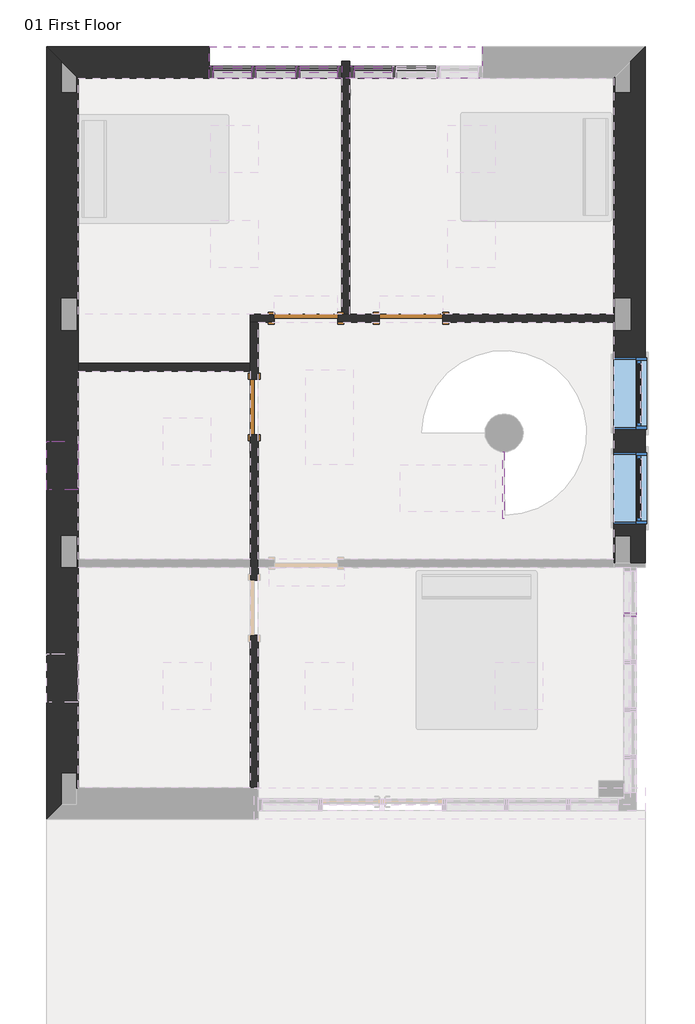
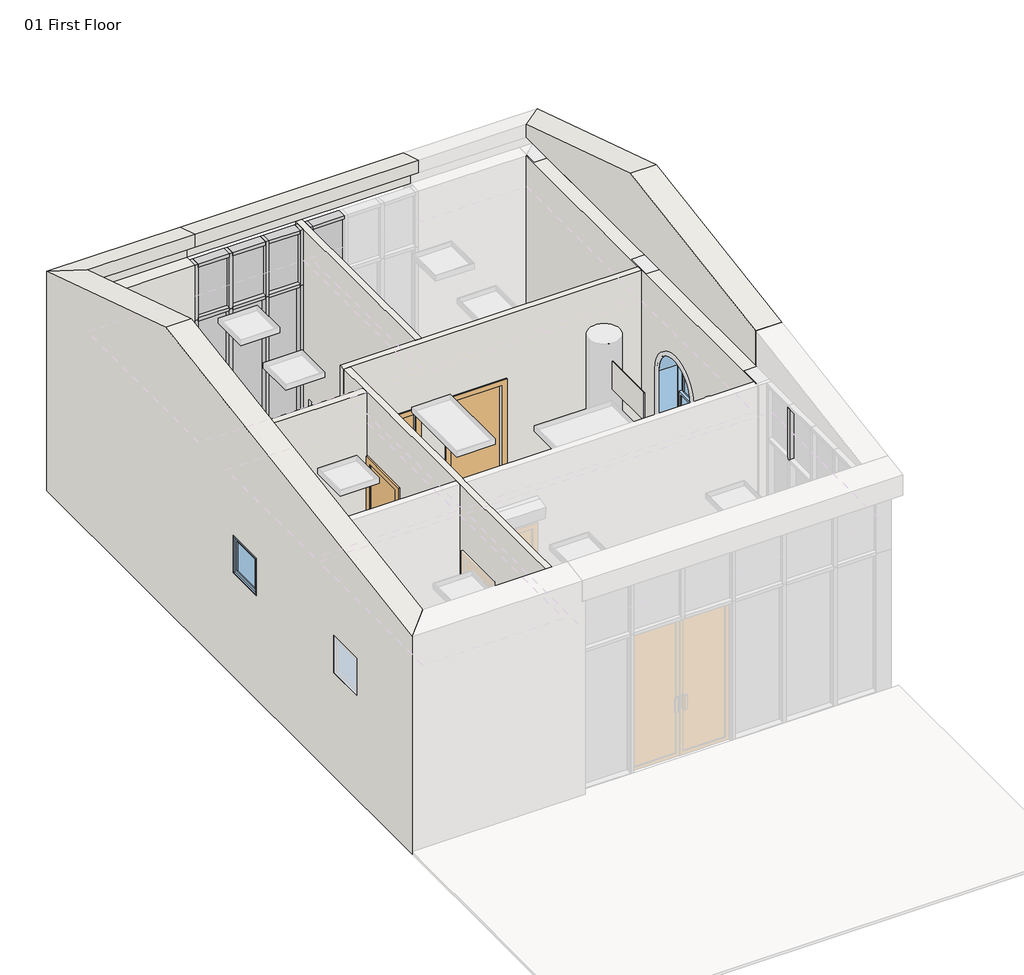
# One storey, part 2 of 3: 25 members, 9 walls, 8 plates, 3 doors, 3 windows.
"""IFC4 building model written with IfcOpenShell, lengths in millimetres."""

from ifc_helpers import new_model, si_unit, point, frame, frame_2d, origin, place, context, project, spatial, polyline, circle_curve, trimmed, segment, composite_curve, outline, extrude, faceted_brep, transform, mapped, element, save
from ifc_brep_helpers import plane_surface, revolved_surface, advanced_brep
from components import m_single_flush_0700_x_2100mm_23326b45, m_single_flush_0800_x_2100mm_e1c1bfab, m_single_flush_0800_x_2100mm_5931a049, rectangular_mullion_50_x_150mm_8753ce05, rectangular_mullion_50_x_150mm_f70f74d1, rectangular_mullion_50_x_150mm_f478ca5a, rectangular_mullion_50_x_150mm_d1e66009, rectangular_mullion_50_x_150mm_6b054e58, rectangular_mullion_50_x_150mm_158f91f9, rectangular_mullion_50_x_150mm_7e1a8c17, rectangular_mullion_50_x_150mm_3ddb3363, rectangular_mullion_50_x_150mm_35d6a770, rectangular_mullion_50_x_150mm_8bb02af5, rectangular_mullion_50_x_150mm_36ef6b42, rectangular_mullion_50_x_150mm_777ece87, system_panel_glazed_5d80e23d, system_panel_glazed_623b0429, system_panel_glazed_dae2c24c, system_panel_solid_e171d4ab, system_panel_solid_d5224606, system_panel_solid_02889cea, m_fixed_0610_x_0610mm_08517cb4, m_window_double_hung_arch_head_900_x_1800mm_510cd141

model = new_model("IFC4")

# Units and contexts
model_context = context("Model", 3, world=origin())
ifc_project = project(units=[si_unit("LENGTHUNIT", "METRE", prefix="MILLI")], contexts=[model_context])

# Site, building, storey
site = spatial("IfcSite", under=ifc_project)
building = spatial("IfcBuilding", under=site)
storey = spatial("IfcBuildingStorey", under=building, Name="01 First Floor", Elevation=3500.0)

# Doors
placement = place(None, origin())
m_single_flush_0700_x_2100mm_shape = m_single_flush_0700_x_2100mm_23326b45(model_context)
element("IfcDoor", 1, ObjectType="M_Single-Flush : 0700 x 2100mm", at=placement, inside=storey, context=model_context, shape_type="MappedRepresentation", body=[
    mapped(m_single_flush_0700_x_2100mm_shape, transform((-5882.5407999, 1965.8732706, 3500.0), x_axis=(0.0, 1.0, 0.0), y_axis=(-1.0, 0.0, 0.0), z_axis=(0.0, 0.0, 1.0))),
])
m_single_flush_0800_x_2100mm_shape = m_single_flush_0800_x_2100mm_e1c1bfab(model_context)
element("IfcDoor", 2, ObjectType="M_Single-Flush : 0800 x 2100mm", at=placement, inside=storey, context=model_context, shape_type="MappedRepresentation", body=[
    mapped(m_single_flush_0800_x_2100mm_shape, transform((-3898.1036851, 3087.4461437, 3500.0), x_axis=(-0.9999999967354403, -8.080296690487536e-05, 0.0), y_axis=(8.080296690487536e-05, -0.9999999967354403, 0.0), z_axis=(0.0, 0.0, 1.0))),
])
m_single_flush_0800_x_2100mm_2_shape = m_single_flush_0800_x_2100mm_5931a049(model_context)
element("IfcDoor", 3, ObjectType="M_Single-Flush : 0800 x 2100mm", at=placement, inside=storey, context=model_context, shape_type="MappedRepresentation", body=[
    mapped(m_single_flush_0800_x_2100mm_2_shape, transform((-5227.2000094, 3087.3387487, 3500.0), x_axis=(0.9999999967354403, 8.080296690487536e-05, 0.0), y_axis=(-8.080296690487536e-05, 0.9999999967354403, 0.0), z_axis=(0.0, 0.0, 1.0))),
])

# Members
rectangular_mullion_50_x_150mm_shape = rectangular_mullion_50_x_150mm_8753ce05(model_context)
element("IfcMember", 4, ObjectType="Rectangular Mullion : 50 x 150mm", at=placement, inside=storey, context=model_context, shape_type="MappedRepresentation", body=[
    mapped(rectangular_mullion_50_x_150mm_shape, transform((-4772.5407999, 6199.2898352, 3500.0), x_axis=(1.0, 0.0, 0.0), y_axis=(0.0, -1.0, 0.0), z_axis=(0.0, 0.0, -1.0))),
])
element("IfcMember", 5, ObjectType="Rectangular Mullion : 50 x 150mm", at=placement, inside=storey, context=model_context, shape_type="MappedRepresentation", body=[
    mapped(rectangular_mullion_50_x_150mm_shape, transform((-6447.5407999, 6199.2898352, 5800.0), x_axis=(-1.0, 0.0, 0.0), y_axis=(0.0, -1.0, 0.0), z_axis=(0.0, 0.0, 1.0))),
])
element("IfcMember", 6, ObjectType="Rectangular Mullion : 50 x 150mm", at=placement, inside=storey, context=model_context, shape_type="MappedRepresentation", body=[
    mapped(rectangular_mullion_50_x_150mm_shape, transform((-4668.7907999, 6199.2898352, 5800.0), x_axis=(-1.0, 0.0, 0.0), y_axis=(0.0, -1.0, 0.0), z_axis=(0.0, 0.0, 1.0))),
])
rectangular_mullion_50_x_150mm_2_shape = rectangular_mullion_50_x_150mm_f70f74d1(model_context)
element("IfcMember", 7, ObjectType="Rectangular Mullion : 50 x 150mm", at=placement, inside=storey, context=model_context, shape_type="MappedRepresentation", body=[
    mapped(rectangular_mullion_50_x_150mm_2_shape, transform((-5889.2074665, 6199.2898352, 3500.0), x_axis=(1.0, 0.0, 0.0), y_axis=(0.0, -1.0, 0.0), z_axis=(0.0, 0.0, -1.0))),
])
element("IfcMember", 8, ObjectType="Rectangular Mullion : 50 x 150mm", at=placement, inside=storey, context=model_context, shape_type="MappedRepresentation", body=[
    mapped(rectangular_mullion_50_x_150mm_2_shape, transform((-5330.8741334, 6199.2898352, 3500.0), x_axis=(1.0, 0.0, 0.0), y_axis=(0.0, -1.0, 0.0), z_axis=(0.0, 0.0, -1.0))),
])
element("IfcMember", 9, ObjectType="Rectangular Mullion : 50 x 150mm", at=placement, inside=storey, context=model_context, shape_type="MappedRepresentation", body=[
    mapped(rectangular_mullion_50_x_150mm_2_shape, transform((-4111.7074665, 6199.2898352, 3500.0), x_axis=(1.0, 0.0, 0.0), y_axis=(0.0, -1.0, 0.0), z_axis=(0.0, 0.0, -1.0))),
])
rectangular_mullion_50_x_150mm_3_shape = rectangular_mullion_50_x_150mm_f478ca5a(model_context)
element("IfcMember", 10, ObjectType="Rectangular Mullion : 50 x 150mm", at=placement, inside=storey, context=model_context, shape_type="MappedRepresentation", body=[
    mapped(rectangular_mullion_50_x_150mm_3_shape, transform((-1127.5407999, -662.7101649, 5800.0), x_axis=(0.0, 1.0, 0.0), y_axis=(1.0, 0.0, 0.0), z_axis=(0.0, 0.0, -1.0))),
])
rectangular_mullion_50_x_150mm_4_shape = rectangular_mullion_50_x_150mm_d1e66009(model_context)
element("IfcMember", 11, ObjectType="Rectangular Mullion : 50 x 150mm", at=placement, inside=storey, context=model_context, shape_type="MappedRepresentation", body=[
    mapped(rectangular_mullion_50_x_150mm_4_shape, transform((-4822.5407999, 6199.2898352, 6700.0), x_axis=(0.0, 0.0, 1.0), y_axis=(0.0, -1.0, 0.0), z_axis=(1.0, 0.0, 0.0))),
])
element("IfcMember", 12, ObjectType="Rectangular Mullion : 50 x 150mm", at=placement, inside=storey, context=model_context, shape_type="MappedRepresentation", body=[
    mapped(rectangular_mullion_50_x_150mm_4_shape, transform((-5914.2074665, 6199.2898352, 6700.0), x_axis=(0.0, 0.0, 1.0), y_axis=(0.0, -1.0, 0.0), z_axis=(1.0, 0.0, 0.0))),
])
rectangular_mullion_50_x_150mm_5_shape = rectangular_mullion_50_x_150mm_6b054e58(model_context)
element("IfcMember", 13, ObjectType="Rectangular Mullion : 50 x 150mm", at=placement, inside=storey, context=model_context, shape_type="MappedRepresentation", body=[
    mapped(rectangular_mullion_50_x_150mm_5_shape, transform((-5355.8741334, 6199.2898352, 6700.0), x_axis=(0.0, 0.0, 1.0), y_axis=(0.0, -1.0, 0.0), z_axis=(1.0, 0.0, 0.0))),
])
element("IfcMember", 14, ObjectType="Rectangular Mullion : 50 x 150mm", at=placement, inside=storey, context=model_context, shape_type="MappedRepresentation", body=[
    mapped(rectangular_mullion_50_x_150mm_4_shape, transform((-6397.5407999, 6199.2898352, 3500.0), x_axis=(0.0, 0.0, -1.0), y_axis=(0.0, -1.0, 0.0), z_axis=(-1.0, 0.0, 0.0))),
])
element("IfcMember", 15, ObjectType="Rectangular Mullion : 50 x 150mm", at=placement, inside=storey, context=model_context, shape_type="MappedRepresentation", body=[
    mapped(rectangular_mullion_50_x_150mm_4_shape, transform((-5305.8741334, 6199.2898352, 3500.0), x_axis=(0.0, 0.0, -1.0), y_axis=(0.0, -1.0, 0.0), z_axis=(-1.0, 0.0, 0.0))),
])
element("IfcMember", 16, ObjectType="Rectangular Mullion : 50 x 150mm", at=placement, inside=storey, context=model_context, shape_type="MappedRepresentation", body=[
    mapped(rectangular_mullion_50_x_150mm_5_shape, transform((-5864.2074665, 6199.2898352, 3500.0), x_axis=(0.0, 0.0, -1.0), y_axis=(0.0, -1.0, 0.0), z_axis=(-1.0, 0.0, 0.0))),
])
rectangular_mullion_50_x_150mm_6_shape = rectangular_mullion_50_x_150mm_158f91f9(model_context)
element("IfcMember", 17, ObjectType="Rectangular Mullion : 50 x 150mm", at=placement, inside=storey, context=model_context, shape_type="MappedRepresentation", body=[
    mapped(rectangular_mullion_50_x_150mm_6_shape, transform((-5914.2074665, 6199.2898352, 5800.0), x_axis=(0.0, 0.0, 1.0), y_axis=(0.0, -1.0, 0.0), z_axis=(1.0, 0.0, 0.0))),
])
element("IfcMember", 18, ObjectType="Rectangular Mullion : 50 x 150mm", at=placement, inside=storey, context=model_context, shape_type="MappedRepresentation", body=[
    mapped(rectangular_mullion_50_x_150mm_6_shape, transform((-4822.5407999, 6199.2898352, 5800.0), x_axis=(0.0, 0.0, 1.0), y_axis=(0.0, -1.0, 0.0), z_axis=(1.0, 0.0, 0.0))),
])
rectangular_mullion_50_x_150mm_7_shape = rectangular_mullion_50_x_150mm_7e1a8c17(model_context)
element("IfcMember", 19, ObjectType="Rectangular Mullion : 50 x 150mm", at=placement, inside=storey, context=model_context, shape_type="MappedRepresentation", body=[
    mapped(rectangular_mullion_50_x_150mm_7_shape, transform((-5355.8741334, 6199.2898352, 5800.0), x_axis=(0.0, 0.0, 1.0), y_axis=(0.0, -1.0, 0.0), z_axis=(1.0, 0.0, 0.0))),
])
rectangular_mullion_50_x_150mm_8_shape = rectangular_mullion_50_x_150mm_3ddb3363(model_context)
element("IfcMember", 20, ObjectType="Rectangular Mullion : 50 x 150mm", at=placement, inside=storey, context=model_context, shape_type="MappedRepresentation", body=[
    mapped(rectangular_mullion_50_x_150mm_8_shape, transform((-5889.2074665, 6199.2898352, 5800.0), x_axis=(1.0, 0.0, 0.0), y_axis=(0.0, -1.0, 0.0), z_axis=(0.0, 0.0, -1.0))),
])
element("IfcMember", 21, ObjectType="Rectangular Mullion : 50 x 150mm", at=placement, inside=storey, context=model_context, shape_type="MappedRepresentation", body=[
    mapped(rectangular_mullion_50_x_150mm_8_shape, transform((-5330.8741334, 6199.2898352, 5800.0), x_axis=(1.0, 0.0, 0.0), y_axis=(0.0, -1.0, 0.0), z_axis=(0.0, 0.0, -1.0))),
])
rectangular_mullion_50_x_150mm_9_shape = rectangular_mullion_50_x_150mm_35d6a770(model_context)
element("IfcMember", 22, ObjectType="Rectangular Mullion : 50 x 150mm", at=placement, inside=storey, context=model_context, shape_type="MappedRepresentation", body=[
    mapped(rectangular_mullion_50_x_150mm_9_shape, transform((-4772.5407999, 6199.2898352, 5800.0), x_axis=(1.0, 0.0, 0.0), y_axis=(0.0, -1.0, 0.0), z_axis=(0.0, 0.0, -1.0))),
])
element("IfcMember", 23, ObjectType="Rectangular Mullion : 50 x 150mm", at=placement, inside=storey, context=model_context, shape_type="MappedRepresentation", body=[
    mapped(rectangular_mullion_50_x_150mm_9_shape, transform((-6447.5407999, 6199.2898352, 6700.0), x_axis=(-1.0, 0.0, 0.0), y_axis=(0.0, -1.0, 0.0), z_axis=(0.0, 0.0, 1.0))),
])
element("IfcMember", 24, ObjectType="Rectangular Mullion : 50 x 150mm", at=placement, inside=storey, context=model_context, shape_type="MappedRepresentation", body=[
    mapped(rectangular_mullion_50_x_150mm_9_shape, transform((-4668.7907999, 6199.2898352, 6700.0), x_axis=(-1.0, 0.0, 0.0), y_axis=(0.0, -1.0, 0.0), z_axis=(0.0, 0.0, 1.0))),
])
rectangular_mullion_50_x_150mm_10_shape = rectangular_mullion_50_x_150mm_8bb02af5(model_context)
element("IfcMember", 25, ObjectType="Rectangular Mullion : 50 x 150mm", at=placement, inside=storey, context=model_context, shape_type="MappedRepresentation", body=[
    mapped(rectangular_mullion_50_x_150mm_10_shape, transform((-4136.7074665, 6199.2898352, 6700.0), x_axis=(0.0, 0.0, 1.0), y_axis=(0.0, -1.0, 0.0), z_axis=(1.0, 0.0, 0.0))),
])
element("IfcMember", 26, ObjectType="Rectangular Mullion : 50 x 150mm", at=placement, inside=storey, context=model_context, shape_type="MappedRepresentation", body=[
    mapped(rectangular_mullion_50_x_150mm_10_shape, transform((-4618.7907999, 6199.2898352, 3500.0), x_axis=(0.0, 0.0, -1.0), y_axis=(0.0, -1.0, 0.0), z_axis=(-1.0, 0.0, 0.0))),
])
rectangular_mullion_50_x_150mm_11_shape = rectangular_mullion_50_x_150mm_36ef6b42(model_context)
element("IfcMember", 27, ObjectType="Rectangular Mullion : 50 x 150mm", at=placement, inside=storey, context=model_context, shape_type="MappedRepresentation", body=[
    mapped(rectangular_mullion_50_x_150mm_11_shape, transform((-4086.7074665, 6199.2898352, 3500.0), x_axis=(0.0, 0.0, -1.0), y_axis=(0.0, -1.0, 0.0), z_axis=(-1.0, 0.0, 0.0))),
])
rectangular_mullion_50_x_150mm_12_shape = rectangular_mullion_50_x_150mm_777ece87(model_context)
element("IfcMember", 28, ObjectType="Rectangular Mullion : 50 x 150mm", at=placement, inside=storey, context=model_context, shape_type="MappedRepresentation", body=[
    mapped(rectangular_mullion_50_x_150mm_12_shape, transform((-4136.7074665, 6199.2898352, 5800.0), x_axis=(0.0, 0.0, 1.0), y_axis=(0.0, -1.0, 0.0), z_axis=(1.0, 0.0, 0.0))),
])

# Plates
system_panel_glazed_shape = system_panel_glazed_5d80e23d(model_context)
element("IfcPlate", 29, ObjectType="System Panel : Glazed", at=placement, inside=storey, context=model_context, shape_type="MappedRepresentation", body=[
    mapped(system_panel_glazed_shape, transform((-6155.8741332, 6199.2898352, 3550.0), x_axis=(1.0, 0.0, 0.0), y_axis=(0.0, 1.0, 0.0), z_axis=(0.0, 0.0, 1.0))),
])
element("IfcPlate", 30, ObjectType="System Panel : Glazed", at=placement, inside=storey, context=model_context, shape_type="MappedRepresentation", body=[
    mapped(system_panel_glazed_shape, transform((-5064.2074667, 6199.2898352, 3550.0), x_axis=(1.0, 0.0, 0.0), y_axis=(0.0, 1.0, 0.0), z_axis=(0.0, 0.0, 1.0))),
])
system_panel_glazed_2_shape = system_panel_glazed_623b0429(model_context)
element("IfcPlate", 31, ObjectType="System Panel : Glazed", at=placement, inside=storey, context=model_context, shape_type="MappedRepresentation", body=[
    mapped(system_panel_glazed_2_shape, transform((-5610.0407999, 6199.2898352, 3550.0), x_axis=(1.0, 0.0, 0.0), y_axis=(0.0, 1.0, 0.0), z_axis=(0.0, 0.0, 1.0))),
])
system_panel_glazed_3_shape = system_panel_glazed_dae2c24c(model_context)
element("IfcPlate", 32, ObjectType="System Panel : Glazed", at=placement, inside=storey, context=model_context, shape_type="MappedRepresentation", body=[
    mapped(system_panel_glazed_3_shape, transform((-4377.7491332, 6199.2898352, 3550.0), x_axis=(1.0, 0.0, 0.0), y_axis=(0.0, 1.0, 0.0), z_axis=(0.0, 0.0, 1.0))),
])
system_panel_solid_shape = system_panel_solid_e171d4ab(model_context)
element("IfcPlate", 33, ObjectType="System Panel : Solid", at=placement, inside=storey, context=model_context, shape_type="MappedRepresentation", body=[
    mapped(system_panel_solid_shape, transform((-6155.8741332, 6199.2898352, 5825.0), x_axis=(1.0, 0.0, 0.0), y_axis=(0.0, 1.0, 0.0), z_axis=(0.0, 0.0, 1.0))),
])
element("IfcPlate", 34, ObjectType="System Panel : Solid", at=placement, inside=storey, context=model_context, shape_type="MappedRepresentation", body=[
    mapped(system_panel_solid_shape, transform((-5064.2074667, 6199.2898352, 5825.0), x_axis=(1.0, 0.0, 0.0), y_axis=(0.0, 1.0, 0.0), z_axis=(0.0, 0.0, 1.0))),
])
system_panel_solid_2_shape = system_panel_solid_d5224606(model_context)
element("IfcPlate", 35, ObjectType="System Panel : Solid", at=placement, inside=storey, context=model_context, shape_type="MappedRepresentation", body=[
    mapped(system_panel_solid_2_shape, transform((-5610.0407999, 6199.2898352, 5825.0), x_axis=(1.0, 0.0, 0.0), y_axis=(0.0, 1.0, 0.0), z_axis=(0.0, 0.0, 1.0))),
])
system_panel_solid_3_shape = system_panel_solid_02889cea(model_context)
element("IfcPlate", 36, ObjectType="System Panel : Solid", at=placement, inside=storey, context=model_context, shape_type="MappedRepresentation", body=[
    mapped(system_panel_solid_3_shape, transform((-4377.7491332, 6199.2898352, 5825.0), x_axis=(1.0, 0.0, 0.0), y_axis=(0.0, 1.0, 0.0), z_axis=(0.0, 0.0, 1.0))),
])

# Walls
element("IfcWall", 37, ObjectType="Exterior - Brick on CMU", at=placement, inside=storey, context=model_context, shape_type="Brep", body=[
    faceted_brep([(-8109.5407999, 6124.2898352, 7211.3913043), (-8109.5407999, 3337.2898352, 8100.0), (-8109.5407999, -2849.7101648, 7106.4671533), (-8109.5407999, -2849.7101648, 7000.0), (-8109.5407999, 6124.2898352, 7000.0), (-8109.5407999, -2849.7101648, 3500.0), (-8109.5407999, -62.7101648, 3500.0), (-8109.5407999, 37.2898352, 3500.0), (-8109.5407999, 2415.8732706, 3500.0), (-8109.5407999, 2515.8732706, 3500.0), (-8109.5407999, 6124.2898352, 3500.0), (-8109.5407999, 6124.2898352, 6700.0), (-8109.5407999, 2515.8732706, 6700.0), (-8109.5407999, 2415.8732706, 6700.0), (-8109.5407999, 37.2898352, 6700.0), (-8109.5407999, -62.7101648, 6700.0), (-8109.5407999, -2849.7101648, 6700.0), (-8109.5407999, 921.5815529, 5190.0), (-8109.5407999, 921.5815529, 5800.0), (-8109.5407999, 1531.5815529, 5800.0), (-8109.5407999, 1531.5815529, 5190.0), (-8109.5407999, -1767.7101648, 5190.0), (-8109.5407999, -1767.7101648, 5800.0), (-8109.5407999, -1157.7101648, 5800.0), (-8109.5407999, -1157.7101648, 5190.0), (-8507.5407999, 6522.2898352, 3500.0), (-8507.5407999, -3247.7101648, 3500.0), (-8507.5407999, -3247.7101648, 7042.5547445), (-8507.5407999, 3337.2898352, 8100.0), (-8507.5407999, 6522.2898352, 7084.4927536), (-8507.5407999, 921.5815529, 5800.0), (-8507.5407999, 921.5815529, 5190.0), (-8507.5407999, 1531.5815529, 5190.0), (-8507.5407999, 1531.5815529, 5800.0), (-8507.5407999, -1767.7101648, 5800.0), (-8507.5407999, -1767.7101648, 5190.0), (-8507.5407999, -1157.7101648, 5190.0), (-8507.5407999, -1157.7101648, 5800.0), (-8122.5407999, -2862.7101648, 3500.0), (-8122.5407999, -2662.7101648, 3500.0), (-8322.5407999, -2662.7101648, 3500.0), (-8322.5407999, -3062.7101648, 3500.0), (-8322.5407999, 6337.2898352, 3500.0), (-8322.5407999, 5937.2898352, 3500.0), (-8122.5407999, 5937.2898352, 3500.0), (-8122.5407999, 6137.2898352, 3500.0), (-8322.5407999, 2937.2898352, 3500.0), (-8122.5407999, 2937.2898352, 3500.0), (-8122.5407999, 3337.2898352, 3500.0), (-8322.5407999, 3337.2898352, 3500.0), (-8322.5407999, -62.7101648, 3500.0), (-8122.5407999, -62.7101648, 3500.0), (-8122.5407999, 337.2898352, 3500.0), (-8322.5407999, 337.2898352, 3500.0), (-8322.5407999, -3062.7101648, 7000.0), (-8122.5407999, -2862.7101648, 6700.0), (-8322.5407999, 6337.2898352, 7000.0), (-8122.5407999, 6137.2898352, 6700.0), (-8322.5407999, 2937.2898352, 6700.0), (-8122.5407999, 2937.2898352, 6700.0), (-8322.5407999, -2662.7101648, 6700.0), (-8322.5407999, -62.7101648, 6700.0), (-8322.5407999, 337.2898352, 6700.0), (-8322.5407999, 3337.2898352, 6700.0), (-8322.5407999, 5937.2898352, 6700.0), (-8122.5407999, 3337.2898352, 6700.0), (-8122.5407999, -62.7101648, 6700.0), (-8122.5407999, 337.2898352, 6700.0), (-8122.5407999, -2662.7101648, 6700.0), (-8122.5407999, 5937.2898352, 6700.0)], [[[0, 1, 2, 3, 4]], [[5, 6, 7, 8, 9, 10, 11, 12, 13, 14, 15, 16], [17, 18, 19, 20], [21, 22, 23, 24]], [[25, 26, 27, 28, 29], [30, 31, 32, 33], [34, 35, 36, 37]], [[10, 9, 8, 7, 6, 5, 38, 39, 40, 41, 26, 25, 42, 43, 44, 45], [46, 47, 48, 49], [50, 51, 52, 53]], [[2, 27, 26, 41, 54, 3]], [[38, 5, 16, 55]], [[25, 29, 0, 4, 56, 42]], [[10, 45, 57, 11]], [[47, 46, 58, 59]], [[60, 61, 50, 53, 62, 58, 46, 49, 63, 64, 43, 42, 56, 54, 41, 40]], [[49, 48, 65, 63]], [[54, 56, 4, 3]], [[51, 50, 61, 66]], [[53, 52, 67, 62]], [[40, 39, 68, 60]], [[44, 43, 64, 69]], [[58, 62, 67, 66, 61, 60, 68, 55, 16, 15, 14, 13, 12, 11, 57, 69, 64, 63, 65, 59]], [[27, 2, 1, 28]], [[0, 29, 28, 1]], [[18, 17, 31, 30]], [[19, 18, 30, 33]], [[20, 19, 33, 32]], [[17, 20, 32, 31]], [[22, 21, 35, 34]], [[23, 22, 34, 37]], [[24, 23, 37, 36]], [[21, 24, 36, 35]], [[48, 47, 59, 65]], [[52, 51, 66, 67]], [[39, 38, 55, 68]], [[45, 44, 69, 57]]]),
])
element("IfcWall", 38, ObjectType="Exterior - Brick on CMU", at=placement, inside=storey, context=model_context, shape_type="AdvancedBrep", body=[
    advanced_brep(
    [(-937.5407999, -12.7101648, 3500.0), (-937.5407999, 6522.2898352, 3500.0), (-937.5407999, 6522.2898352, 7084.4927536), (-937.5407999, 3337.2898352, 8100.0), (-937.5407999, -12.7101648, 7562.0437956), (-937.5407999, 2586.7898352, 5350.0), (-937.5407999, 2586.7898352, 4000.0), (-937.5407999, 1686.7898352, 4000.0), (-937.5407999, 1686.7898352, 5350.0), (-937.5407999, 1386.7898352, 5350.0), (-937.5407999, 1386.7898352, 4000.0), (-937.5407999, 486.7898352, 4000.0), (-937.5407999, 486.7898352, 5350.0), (-1335.5407999, 6124.2898352, 3500.0), (-1335.5407999, 3137.6532065, 3500.0), (-1335.5407999, 3037.6532062, 3500.0), (-1335.5407999, 37.2898352, 3500.0), (-1335.5407999, -12.7101648, 3500.0), (-1335.5407999, -12.7101648, 6700.0), (-1335.5407999, 37.2898352, 6700.0), (-1335.5407999, 3037.6532062, 6700.0), (-1335.5407999, 3137.6532065, 6700.0), (-1335.5407999, 6124.2898352, 6700.0), (-1335.5407999, 2586.7898352, 4000.0), (-1335.5407999, 2586.7898352, 5350.0), (-1335.5407999, 1686.7898352, 5350.0), (-1335.5407999, 1686.7898352, 4000.0), (-1335.5407999, 1386.7898352, 4000.0), (-1335.5407999, 1386.7898352, 5350.0), (-1335.5407999, 486.7898352, 5350.0), (-1335.5407999, 486.7898352, 4000.0), (-1335.5407999, -12.7101648, 7562.0437956), (-1335.5407999, 3337.2898352, 8100.0), (-1335.5407999, 6124.2898352, 7211.3913043), (-1335.5407999, 6124.2898352, 7000.0), (-1335.5407999, -12.7101648, 7000.0), (-1122.5407999, -12.7101648, 3500.0), (-1122.5407999, 337.2898352, 3500.0), (-1322.5407999, 337.2898352, 3500.0), (-1322.5407999, -12.7101648, 3500.0), (-1322.5407999, 6137.2898352, 3500.0), (-1322.5407999, 5937.2898352, 3500.0), (-1122.5407999, 5937.2898352, 3500.0), (-1122.5407999, 6337.2898352, 3500.0), (-1122.5407999, 2937.2898352, 3500.0), (-1122.5407999, 3337.2898352, 3500.0), (-1322.5407999, 3337.2898352, 3500.0), (-1322.5407999, 2937.2898352, 3500.0), (-1122.5407999, 5937.2898352, 6700.0), (-1122.5407999, 3337.2898352, 6700.0), (-1122.5407999, 2937.2898352, 6700.0), (-1122.5407999, 337.2898352, 6700.0), (-1122.5407999, -12.7101648, 6700.0), (-1122.5407999, -12.7101648, 7000.0), (-1122.5407999, 6337.2898352, 7000.0), (-1322.5407999, 2937.2898352, 6700.0), (-1322.5407999, 3337.2898352, 6700.0), (-1322.5407999, 337.2898352, 6700.0), (-1322.5407999, -12.7101648, 6700.0), (-1322.5407999, 5937.2898352, 6700.0), (-1322.5407999, 6137.2898352, 6700.0)],
    [
        (0, 1),
        (1, 2),
        (2, 3),
        (3, 4),
        (4, 0),
        (5, 6),
        (6, 7),
        (7, 8),
        (8, 5, circle_curve(frame((-937.5407999, 2136.7898352, 5350.0), z_axis=(-1.0, 0.0, 0.0), x_axis=(0.0, -1.0, 0.0)), 450.0)),
        (9, 10),
        (10, 11),
        (11, 12),
        (12, 9, circle_curve(frame((-937.5407999, 936.7898352, 5350.0), z_axis=(-1.0, 0.0, 0.0), x_axis=(0.0, -1.0, 0.0)), 450.0)),
        (13, 14),
        (14, 15),
        (15, 16),
        (16, 17),
        (17, 18),
        (18, 19),
        (19, 20),
        (20, 21),
        (21, 22),
        (22, 13),
        (23, 24),
        (24, 25, circle_curve(frame((-1335.5407999, 2136.7898352, 5350.0), z_axis=(1.0, 0.0, 0.0), x_axis=(0.0, -1.0, 0.0)), 450.0)),
        (25, 26),
        (26, 23),
        (27, 28),
        (28, 29, circle_curve(frame((-1335.5407999, 936.7898352, 5350.0), z_axis=(1.0, 0.0, 0.0), x_axis=(0.0, -1.0, 0.0)), 450.0)),
        (29, 30),
        (30, 27),
        (31, 32),
        (32, 33),
        (33, 34),
        (34, 35),
        (35, 31),
        (0, 36),
        (36, 37),
        (37, 38),
        (38, 39),
        (39, 17),
        (13, 40),
        (40, 41),
        (41, 42),
        (42, 43),
        (43, 1),
        (44, 45),
        (45, 46),
        (46, 47),
        (47, 44),
        (42, 48),
        (48, 49),
        (49, 45),
        (44, 50),
        (50, 51),
        (51, 37),
        (36, 52),
        (52, 53),
        (53, 54),
        (54, 43),
        (47, 55),
        (55, 50),
        (46, 56),
        (56, 55),
        (49, 56),
        (53, 35),
        (34, 54),
        (38, 57),
        (57, 58),
        (58, 39),
        (51, 57),
        (41, 59),
        (59, 48),
        (40, 60),
        (60, 59),
        (33, 2),
        (22, 60),
        (18, 58),
        (4, 31),
        (3, 32),
        (5, 24),
        (23, 6),
        (26, 7),
        (25, 8),
        (9, 28),
        (27, 10),
        (30, 11),
        (29, 12),
    ],
    [
        plane_surface(frame((-937.5407999, 5.3142246, 3500.0), z_axis=(1.0, 0.0, 0.0), x_axis=(0.0, 1.0, 0.0))),
        plane_surface(frame((-1335.5407999, 5.3142246, 3500.0), z_axis=(-1.0, 0.0, 0.0), x_axis=(0.0, -1.0, 0.0))),
        plane_surface(frame((-937.5407999, -12.7101648, 3500.0), z_axis=(0.0, 0.0, -1.0), x_axis=(-1.0, 0.0, 0.0))),
        plane_surface(frame((-1122.5407999, 2937.2898352, 7000.0), z_axis=(-1.0, 0.0, 0.0), x_axis=(0.0, 0.0, -1.0))),
        plane_surface(frame((-1322.5407999, 2937.2898352, 7000.0), z_axis=(0.0, 1.0, 0.0), x_axis=(0.0, 0.0, -1.0))),
        plane_surface(frame((-1322.5407999, 3337.2898352, 7000.0), z_axis=(1.0, 0.0, 0.0), x_axis=(0.0, 0.0, -1.0))),
        plane_surface(frame((-1122.5407999, 3337.2898352, 7000.0), z_axis=(0.0, -1.0, 0.0), x_axis=(0.0, 0.0, -1.0))),
        plane_surface(frame((-1322.5407999, 3337.2898352, 7000.0), z_axis=(0.0, 0.0, -1.0), x_axis=(-1.0, 0.0, 0.0))),
        plane_surface(frame((-1322.5407999, 337.2898352, 7000.0), z_axis=(1.0, 0.0, 0.0), x_axis=(0.0, 0.0, -1.0))),
        plane_surface(frame((-1122.5407999, 337.2898352, 7000.0), z_axis=(0.0, -1.0, 0.0), x_axis=(0.0, 0.0, -1.0))),
        plane_surface(frame((-1322.5407999, 5937.2898352, 7000.0), z_axis=(0.0, 1.0, 0.0), x_axis=(0.0, 0.0, -1.0))),
        plane_surface(frame((-1322.5407999, 6337.2898352, 7000.0), z_axis=(1.0, 0.0, 0.0), x_axis=(0.0, 0.0, -1.0))),
        plane_surface(frame((-937.5407999, 6522.2898352, 3500.0), z_axis=(-0.7071067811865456, 0.7071067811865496, 0.0), x_axis=(-0.7071067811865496, -0.7071067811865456, 0.0))),
        plane_surface(frame((4877.4592001, 6337.2898352, 6700.0), z_axis=(0.0, 0.0, 1.0), x_axis=(1.0, 0.0, 0.0))),
        plane_surface(frame((-937.5407999, -12.7101648, 7000.0), z_axis=(0.0, -1.0, 0.0), x_axis=(-1.0, 0.0, 0.0))),
        plane_surface(frame((-672.5407999, -3512.7101648, 7000.0), z_axis=(0.0, -0.1585526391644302, 0.9873505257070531), x_axis=(1.0, 0.0, 0.0))),
        plane_surface(frame((-8787.5407999, 6787.2898352, 7000.0), z_axis=(0.0, 0.30377353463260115, 0.9527442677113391), x_axis=(-1.0, 0.0, 0.0))),
        plane_surface(frame((-937.5407999, 2586.7898352, 5350.0), z_axis=(0.0, -1.0, 0.0), x_axis=(-1.0, 0.0, 0.0))),
        plane_surface(frame((-937.5407999, 2586.7898352, 4000.0), z_axis=(0.0, 0.0, 1.0), x_axis=(-1.0, 0.0, 0.0))),
        plane_surface(frame((-937.5407999, 1686.7898352, 4000.0), z_axis=(0.0, 1.0, 0.0), x_axis=(-1.0, 0.0, 0.0))),
        plane_surface(frame((-937.5407999, 1386.7898352, 5350.0), z_axis=(0.0, -1.0, 0.0), x_axis=(-1.0, 0.0, 0.0))),
        plane_surface(frame((-937.5407999, 1386.7898352, 4000.0), z_axis=(0.0, 0.0, 1.0), x_axis=(-1.0, 0.0, 0.0))),
        plane_surface(frame((-937.5407999, 486.7898352, 4000.0), z_axis=(0.0, 1.0, 0.0), x_axis=(-1.0, 0.0, 0.0))),
        revolved_surface(polyline([(-1335.5407999, 486.78983519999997, 5350.0), (-937.5407999, 486.78983519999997, 5350.0)]), (-1335.5407999, 936.7898352, 5350.0), (-1.0, 0.0, 0.0)),
        revolved_surface(polyline([(-1335.5407999, 1686.7898352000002, 5350.0), (-937.5407999, 1686.7898352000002, 5350.0)]), (-1335.5407999, 2136.7898352, 5350.0), (-1.0, 0.0, 0.0)),
    ],
    [
        (0, [[1, 2, 3, 4, 5], [6, 7, 8, 9], [10, 11, 12, 13]]),
        (1, [[14, 15, 16, 17, 18, 19, 20, 21, 22, 23], [24, 25, 26, 27], [28, 29, 30, 31]]),
        (1, [[32, 33, 34, 35, 36]]),
        (2, [[-1, 37, 38, 39, 40, 41, -17, -16, -15, -14, 42, 43, 44, 45, 46], [47, 48, 49, 50]]),
        (3, [[-45, 51, 52, 53, -47, 54, 55, 56, -38, 57, 58, 59, 60]]),
        (4, [[-50, 61, 62, -54]]),
        (5, [[-49, 63, 64, -61]]),
        (6, [[-48, -53, 65, -63]]),
        (7, [[-59, 66, -35, 67]]),
        (8, [[-40, 68, 69, 70]]),
        (9, [[-39, -56, 71, -68]]),
        (10, [[-44, 72, 73, -51]]),
        (11, [[-43, 74, 75, -72]]),
        (12, [[-2, -46, -60, -67, -34, 76]]),
        (12, [[-42, -23, 77, -74]]),
        (13, [[-55, -62, -64, -65, -52, -73, -75, -77, -22, -21, -20, -19, 78, -69, -71]]),
        (14, [[79, -36, -66, -58, -57, -37, -5]]),
        (14, [[-41, -70, -78, -18]]),
        (15, [[-79, -4, 80, -32]]),
        (16, [[-76, -33, -80, -3]]),
        (17, [[-6, 81, -24, 82]]),
        (18, [[-7, -82, -27, 83]]),
        (19, [[-8, -83, -26, 84]]),
        (20, [[-10, 85, -28, 86]]),
        (21, [[-11, -86, -31, 87]]),
        (22, [[-12, -87, -30, 88]]),
        (23, [[-13, -88, -29, -85]]),
        (24, [[-9, -84, -25, -81]]),
    ],
),
])
element("IfcWall", 39, ObjectType="Exterior - Brick on CMU", at=placement, inside=storey, context=model_context, shape_type="Brep", body=[
    faceted_brep([(-8109.5407999, 6124.2898352, 3500.0), (-6447.5407999, 6124.2898352, 3500.0), (-6447.5407999, 6124.2898352, 6700.0), (-8109.5407999, 6124.2898352, 6700.0), (-6447.5407999, 6124.2898352, 7211.3913043), (-8109.5407999, 6124.2898352, 7211.3913043), (-8109.5407999, 6124.2898352, 7000.0), (-6447.5407999, 6124.2898352, 7000.0), (-6447.5407999, 6522.2898352, 3500.0), (-8507.5407999, 6522.2898352, 3500.0), (-8507.5407999, 6522.2898352, 7084.4927536), (-6447.5407999, 6522.2898352, 7084.4927536), (-6447.5407999, 6522.2898352, 6700.0), (-8122.5407999, 6137.2898352, 3500.0), (-8322.5407999, 6337.2898352, 3500.0), (-6447.5407999, 6337.2898352, 7000.0), (-6447.5407999, 6337.2898352, 6700.0), (-8122.5407999, 6137.2898352, 6700.0), (-8322.5407999, 6337.2898352, 6700.0), (-8322.5407999, 6337.2898352, 7000.0)], [[[0, 1, 2, 3]], [[4, 5, 6, 7]], [[8, 9, 10, 11, 12]], [[1, 0, 13, 14, 9, 8]], [[8, 12, 11, 4, 7, 15, 16, 2, 1]], [[10, 9, 14, 13, 0, 3, 17, 18, 19, 6, 5]], [[16, 18, 17, 3, 2]], [[19, 15, 7, 6]], [[18, 16, 15, 19]], [[5, 4, 11, 10]]]),
])
element("IfcWall", 40, ObjectType="Exterior - Brick on CMU", at=placement, inside=storey, context=model_context, shape_type="SweptSolid", body=[
    extrude(outline(polyline([(6522.2898352, 7084.4927536), (6522.2898352, 6700.0), (6337.2898352, 6700.0), (6337.2898352, 7000.0), (6124.2898352, 7000.0), (6124.2898352, 7211.3913043), (6522.2898352, 7084.4927536)])), frame((-6447.5407999, 0.0, 0.0), z_axis=(1.0, 0.0, 0.0), x_axis=(0.0, 1.0, 0.0)), (0.0, 0.0, 1.0), 3450.0),
])
element("IfcWall", 41, ObjectType="Generic - 100mm", at=placement, inside=storey, context=model_context, shape_type="SweptSolid", body=[
    extrude(outline(polyline([(-5932.5407999, 2415.8732706), (-8109.5407999, 2415.8732706), (-8109.5407999, 2515.8732706), (-5932.5407999, 2515.8732706), (-5932.5407999, 2415.8732706)])), frame((0.0, 0.0, 3500.0), z_axis=(0.0, 0.0, 1.0), x_axis=(1.0, 0.0, 0.0)), (0.0, 0.0, 1.0), 3200.0),
])
element("IfcWall", 42, ObjectType="Generic - 100mm", at=placement, inside=storey, context=model_context, shape_type="SweptSolid", body=[
    extrude(outline(polyline([(-4772.5407999, 3137.3754867), (-4772.5407999, 6337.2898352), (-4672.5407999, 6337.2898352), (-4672.5407999, 3137.383567), (-4772.5407999, 3137.3754867)])), frame((0.0, 0.0, 3500.0), z_axis=(0.0, 0.0, 1.0), x_axis=(1.0, 0.0, 0.0)), (0.0, 0.0, 1.0), 3200.0),
])
element("IfcWall", 43, ObjectType="Generic - 100mm", at=placement, inside=storey, context=model_context, shape_type="Brep", body=[
    faceted_brep([(-4298.1077239, 3137.4138223, 5600.0), (-4298.1077239, 3137.4138223, 3500.0), (-4672.5407999, 3137.383567, 3500.0), (-4772.5407999, 3137.3754867, 3500.0), (-4827.2040508, 3137.3710698, 3500.0), (-4827.2040508, 3137.3710698, 5600.0), (-5627.2040482, 3137.3064274, 5600.0), (-5627.2040482, 3137.3064274, 3500.0), (-5932.5407999, 3137.2817553, 3500.0), (-5932.5407999, 3137.2817553, 6700.0), (-4772.5407999, 3137.3754867, 6700.0), (-4672.5407999, 3137.383567, 6700.0), (-1335.5407999, 3137.6532065, 6700.0), (-1335.5407999, 3137.6532065, 3500.0), (-3498.1077265, 3137.4784647, 3500.0), (-3498.1077265, 3137.4784647, 5600.0), (-4827.1959705, 3037.3710701, 3500.0), (-4298.0996436, 3037.4138226, 3500.0), (-4298.0996436, 3037.4138226, 5600.0), (-3498.0996462, 3037.478465, 5600.0), (-3498.0996462, 3037.478465, 3500.0), (-1335.5407999, 3037.6532062, 3500.0), (-1335.5407999, 3037.6532062, 6700.0), (-5832.5407999, 3037.2898352, 6700.0), (-5932.5407999, 3037.2817549, 6700.0), (-5932.5407999, 3037.2817549, 3500.0), (-5832.5407999, 3037.2898352, 3500.0), (-5627.1959679, 3037.3064277, 3500.0), (-5627.1959679, 3037.3064277, 5600.0), (-4827.1959705, 3037.3710701, 5600.0)], [[[0, 1, 2, 3, 4, 5, 6, 7, 8, 9, 10, 11, 12, 13, 14, 15]], [[16, 17, 18, 19, 20, 21, 22, 23, 24, 25, 26, 27, 28, 29]], [[27, 26, 25, 8, 7]], [[14, 13, 21, 20]], [[4, 3, 2, 1, 17, 16]], [[13, 12, 22, 21]], [[9, 8, 25, 24]], [[12, 11, 10, 9, 24, 23, 22]], [[5, 4, 16, 29]], [[6, 5, 29, 28]], [[7, 6, 28, 27]], [[18, 17, 1, 0]], [[19, 18, 0, 15]], [[20, 19, 15, 14]]]),
])
element("IfcWall", 44, ObjectType="Generic - 100mm", at=placement, inside=storey, context=model_context, shape_type="Brep", body=[
    faceted_brep([(-5932.5407999, 1615.8732706, 3500.0), (-5932.5407999, 37.2898352, 3500.0), (-5932.5407999, -62.7101648, 3500.0), (-5932.5407999, -224.1267294, 3500.0), (-5932.5407999, -224.1267294, 5600.0), (-5932.5407999, -924.1267294, 5600.0), (-5932.5407999, -924.1267294, 3500.0), (-5932.5407999, -2849.7101648, 3500.0), (-5932.5407999, -2849.7101648, 6700.0), (-5932.5407999, -62.7101648, 6700.0), (-5932.5407999, 37.2898352, 6700.0), (-5932.5407999, 2415.8732706, 6700.0), (-5932.5407999, 2515.8732706, 6700.0), (-5932.5407999, 3037.2817549, 6700.0), (-5932.5407999, 3037.2817549, 3500.0), (-5932.5407999, 2515.8732706, 3500.0), (-5932.5407999, 2415.8732706, 3500.0), (-5932.5407999, 2315.8732706, 3500.0), (-5932.5407999, 2315.8732706, 5600.0), (-5932.5407999, 1615.8732706, 5600.0), (-5832.5407999, -224.1267294, 5600.0), (-5832.5407999, -224.1267294, 3500.0), (-5832.5407999, -62.7101648, 3500.0), (-5832.5407999, 37.2898352, 3500.0), (-5832.5407999, 1615.8732706, 3500.0), (-5832.5407999, 1615.8732706, 5600.0), (-5832.5407999, 2315.8732706, 5600.0), (-5832.5407999, 2315.8732706, 3500.0), (-5832.5407999, 3037.2898352, 3500.0), (-5832.5407999, 3037.2898352, 6700.0), (-5832.5407999, 37.2898352, 6700.0), (-5832.5407999, -62.7101648, 6700.0), (-5832.5407999, -2849.7101648, 6700.0), (-5832.5407999, -2849.7101648, 3500.0), (-5832.5407999, -924.1267294, 3500.0), (-5832.5407999, -924.1267294, 5600.0)], [[[0, 1, 2, 3, 4, 5, 6, 7, 8, 9, 10, 11, 12, 13, 14, 15, 16, 17, 18, 19]], [[20, 21, 22, 23, 24, 25, 26, 27, 28, 29, 30, 31, 32, 33, 34, 35]], [[28, 27, 17, 16, 15, 14]], [[34, 33, 7, 6]], [[24, 23, 22, 21, 3, 2, 1, 0]], [[14, 13, 29, 28]], [[8, 7, 33, 32]], [[13, 12, 11, 10, 9, 8, 32, 31, 30, 29]], [[18, 17, 27, 26]], [[19, 18, 26, 25]], [[0, 19, 25, 24]], [[4, 3, 21, 20]], [[5, 4, 20, 35]], [[6, 5, 35, 34]]]),
])
element("IfcWall", 45, ObjectType="Gypsum board 15mm", at=placement, inside=storey, context=model_context, shape_type="SweptSolid", body=[
    extrude(outline(composite_curve([segment(polyline([(-2737.1476914, 552.4610807), (-2737.1476914, 1397.3265121), (-2722.1476914, 1397.3265121), (-2722.1476914, 552.3626184)]), True, "CONTINUOUS"), segment(trimmed(circle_curve(frame_2d((-2722.5259059, 1637.3625525)), 1085.0), [point((-2722.1476914, 552.3626184))], [point((-2737.1476914, 552.4610807))], False, "CARTESIAN"), True, "CONTINUOUS")], self_intersect=False)), frame((0.0, 0.0, 6250.0), z_axis=(0.0, 0.0, 1.0), x_axis=(1.0, 0.0, 0.0)), (0.0, 0.0, 1.0), 450.0),
])

# Windows
m_fixed_0610_x_0610mm_shape = m_fixed_0610_x_0610mm_08517cb4(model_context)
element("IfcWindow", 46, ObjectType="M_Fixed : 0610 x 0610mm", at=placement, inside=storey, context=model_context, shape_type="MappedRepresentation", body=[
    mapped(m_fixed_0610_x_0610mm_shape, transform((-8295.5407999, 1226.5815529, 4275.0), x_axis=(0.0, 1.0, 0.0), y_axis=(-1.0, 0.0, 0.0), z_axis=(0.0, 0.0, 1.0))),
])
m_window_double_hung_arch_head_900_x_1800mm_shape = m_window_double_hung_arch_head_900_x_1800mm_510cd141(model_context)
element("IfcWindow", 47, ObjectType="M_Window-Double-Hung-Arch-Head : 900 x 1800mm", at=placement, inside=storey, context=model_context, shape_type="MappedRepresentation", body=[
    mapped(m_window_double_hung_arch_head_900_x_1800mm_shape, transform((-1136.5407999, 2136.7898352, 3085.6), x_axis=(0.0, -1.0, 0.0), y_axis=(1.0, 0.0, 0.0), z_axis=(0.0, 0.0, 1.0))),
])
element("IfcWindow", 48, ObjectType="M_Window-Double-Hung-Arch-Head : 900 x 1800mm", at=placement, inside=storey, context=model_context, shape_type="MappedRepresentation", body=[
    mapped(m_window_double_hung_arch_head_900_x_1800mm_shape, transform((-1136.5407999, 936.7898352, 3085.6), x_axis=(0.0, -1.0, 0.0), y_axis=(1.0, 0.0, 0.0), z_axis=(0.0, 0.0, 1.0))),
])

save(model, "model.ifc")
